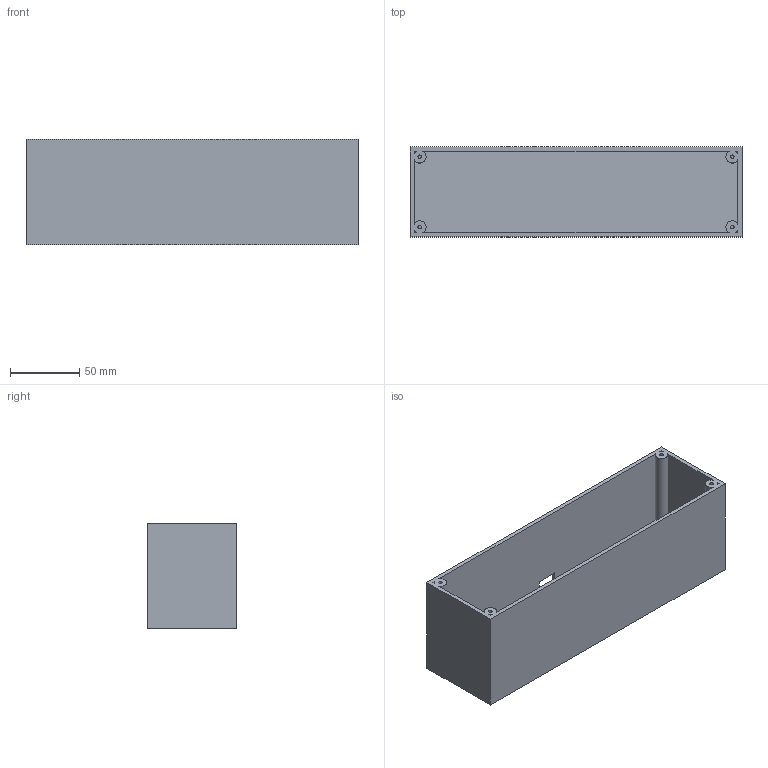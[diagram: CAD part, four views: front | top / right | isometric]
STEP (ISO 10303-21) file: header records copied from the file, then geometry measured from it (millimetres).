
FILE_DESCRIPTION(('Open CASCADE Model'),'2;1');
FILE_NAME('Open CASCADE Shape Model','2026-10-21T16:54:03',('Author'),( 'Open CASCADE'),'Open CASCADE STEP processor 7.9','Open CASCADE 7.9' ,'Unknown');
FILE_SCHEMA(('AUTOMOTIVE_DESIGN { 1 0 10303 214 1 1 1 1 }'));
Length unit declared in the file: millimetre
Products named in the file (1): Open CASCADE STEP translator 7.9 59
Bounding box: 240 x 65 x 76 mm (x, y, z)
Volume: 195381.5 mm3; surface area: 123562.5 mm2
Topology: 1 solids, 1 shells, 43 faces, 96 edges, 64 vertices
Faces by surface type: plane 31, cylinder 12
Full cylindrical faces by diameter (mm): 2.5 x4
Entity records: 2492 total; most frequent: CARTESIAN_POINT 468, DIRECTION 388, LINE 240, VECTOR 240, ORIENTED_EDGE 192, PCURVE 192, DEFINITIONAL_REPRESENTATION 192, EDGE_CURVE 96
